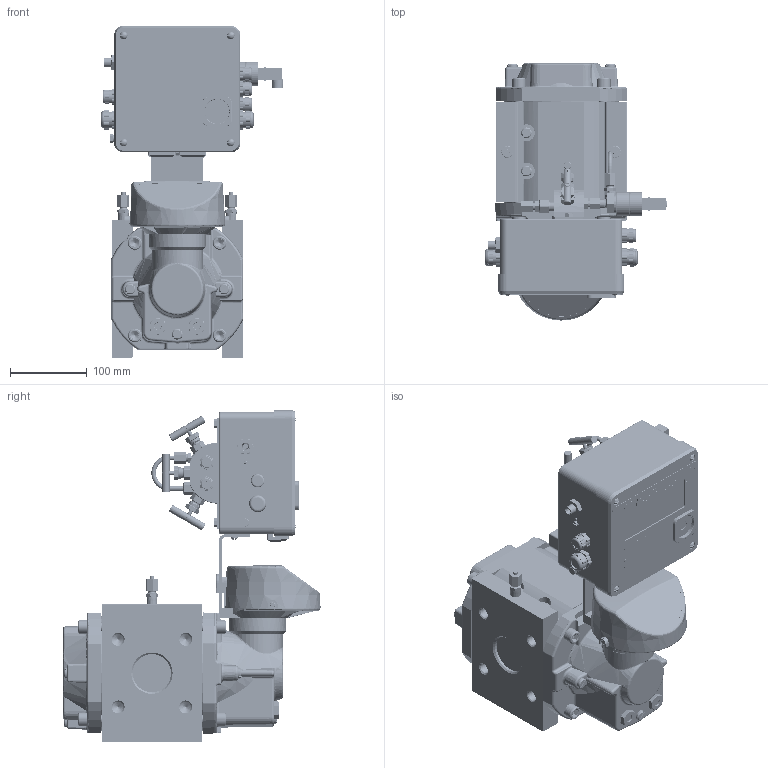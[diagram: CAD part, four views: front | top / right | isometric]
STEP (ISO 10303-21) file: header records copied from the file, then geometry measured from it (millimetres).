
FILE_DESCRIPTION(('STEP AP203'), '1');
FILE_NAME('RVG_G65+EK270_PPD', '', ('UNSPECIFIED'), ('UNSPECIFIED'), 'C3D Converter', 'C3D Toolkit', '');
FILE_SCHEMA(('CONFIG_CONTROL_DESIGN'));
Length unit declared in the file: millimetre
Products named in the file (5): 22; 23; 24; 25; 26
Assembly tree (4 placements, depth 3):
  22
    23
      24
      25
    26
Bounding box: 238.39 x 336.2 x 434 mm (x, y, z)
Volume: 6073732.6 mm3; surface area: 1005273.4 mm2
Topology: 119 solids, 134 shells, 6069 faces, 15797 edges, 10242 vertices
Faces by surface type: plane 3849, cylinder 1153, cone 508, extrusion 322, torus 163, bspline 63, sphere 11
Full cylindrical faces by diameter (mm): 1 x2, 1.95 x3, 2 x15, 2.5 x4, 2.791 x2, 2.8 x2, 3 x5, 3.2 x9, 3.3 x4, 3.45 x3, 3.5 x2, 4 x28, 4.2 x8, 4.249 x1, 4.3 x3, 4.8 x2, 5 x21, 5.5 x11, 6 x35, 6.2 x6, 6.4 x4, 6.5 x12, 6.6 x4, 7 x17, 8 x8, 8.2 x8, 8.5 x2, 8.77 x2, 9 x22, 9.4 x6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
Entity records: 271456 total; most frequent: CARTESIAN_POINT 94519, ORIENTED_EDGE 29533, DIRECTION 27264, EDGE_CURVE 14810, VERTEX_POINT 10167, VECTOR 10164, LINE 9842, AXIS2_PLACEMENT_3D 8550
